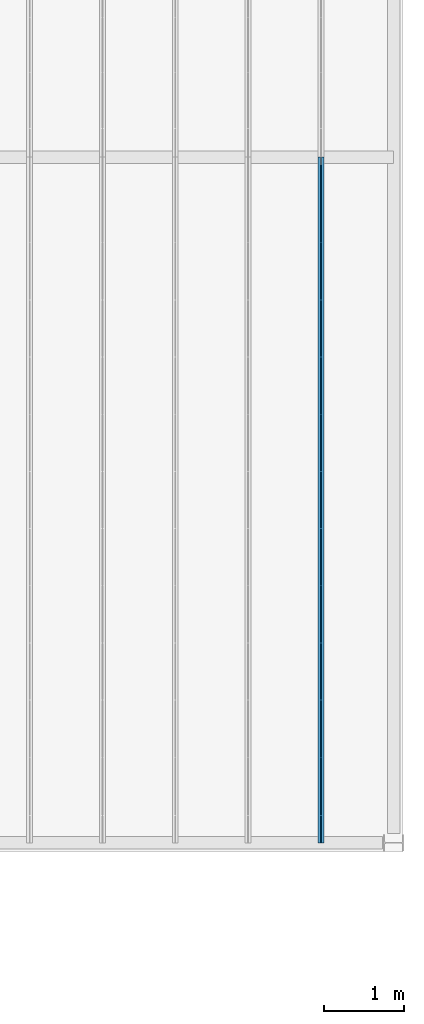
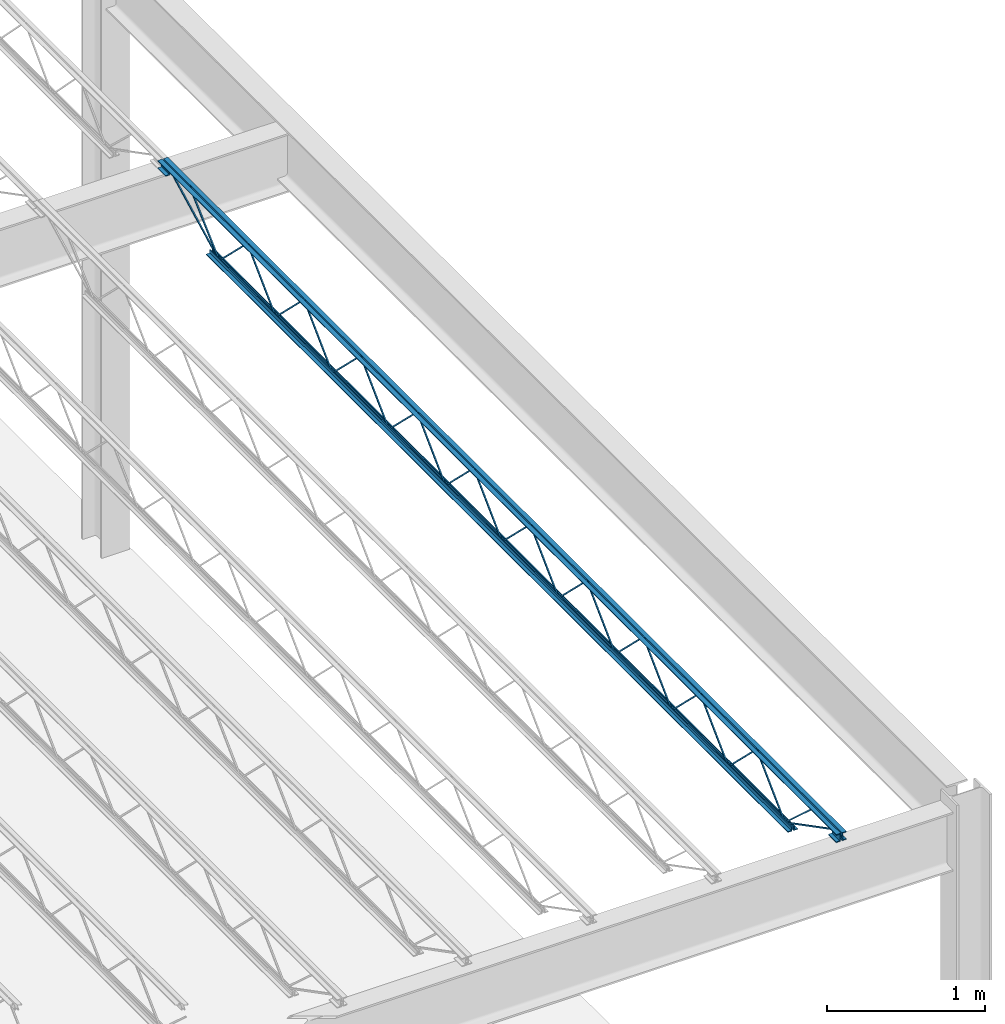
# One storey, part 70 of 119: 1 beam.
"""IFC2X3 building model written with IfcOpenShell, lengths in metres."""

from ifc_helpers import new_model, entity, si_unit, converted_unit, frame, origin, place, context, project, spatial, face_set, surface_model, element, save


model = new_model("IFC2X3")

# Units and contexts
model_context = context("Model", 3, precision=1e-09, world=origin())
plan_context = context("Plan", 3, precision=1e-09, world=origin())
ifc_project = project(units=[si_unit("LENGTHUNIT", "METRE"), si_unit("AREAUNIT", "SQUARE_METRE"), si_unit("VOLUMEUNIT", "CUBIC_METRE"), converted_unit("PLANEANGLEUNIT", "DEGREE", entity("IfcRatioMeasure", 0.01745329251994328), si_unit("PLANEANGLEUNIT", "RADIAN"), dimensions=[0, 0, 0, 0, 0, 0, 0]), si_unit("TIMEUNIT", "SECOND")], contexts=[model_context, plan_context])

# Site, building, storey
site_placement = place(None, origin())
site = spatial("IfcSite", under=ifc_project, at=site_placement, Name="Default", CompositionType="ELEMENT")
building_placement = place(site_placement, origin())
building = spatial("IfcBuilding", under=site, at=building_placement, CompositionType="ELEMENT")
storey_placement = place(building_placement, frame((0.0, 0.0, 4.570000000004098)))
storey = spatial("IfcBuildingStorey", under=building, at=storey_placement, Name="Second Floor", CompositionType="ELEMENT", Elevation=4.570000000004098)

# Beam
beam_placement = place(storey_placement, frame((-0.9467500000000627, 10.03999999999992, 4.323999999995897)))
element("IfcBeam", 1, at=beam_placement, inside=storey, Name="M_K-Series Bar Joist-Rod Web:14K1:14K1", ObjectType="M_K-Series Bar Joist-Rod Web:14K1", context=model_context, shape_type="SurfaceModel", body=[
    surface_model("IfcFaceBasedSurfaceModel", [(0.04150000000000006, 6.428799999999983, 0.01110000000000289), (0.03200000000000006, 6.428799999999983, 0.01110000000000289), (0.03200000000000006, 6.428799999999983, 0.001600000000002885), (0.04150000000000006, 6.428799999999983, 0.001600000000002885), (0.03200000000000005, 6.430038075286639, 0.01110000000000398), (0.04150000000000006, 6.430038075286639, 0.01110000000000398), (0.03200000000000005, 6.433911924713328, 0.001600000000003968), (0.03200000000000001, 6.784861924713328, 0.3449000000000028), (0.03200000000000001, 6.787338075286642, 0.3449000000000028), (0.03200000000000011, 7.138288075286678, 0.001600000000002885), (0.0320000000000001, 7.143399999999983, 0.001600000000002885), (0.0320000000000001, 7.143399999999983, 0.01110000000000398), (0.03200000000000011, 7.142161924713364, 0.01110000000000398), (0.032, 6.791211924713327, 0.3544000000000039), (0.03200000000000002, 6.780988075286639, 0.3544000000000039), (0.04150000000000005, 6.433911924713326, 0.001600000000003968), (0.04150000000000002, 6.784861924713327, 0.3449000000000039), (0.04150000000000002, 6.78733807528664, 0.3449000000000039), (0.04149999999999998, 7.138288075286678, 0.001600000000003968), (0.04149999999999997, 7.143399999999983, 0.001600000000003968), (0.04150000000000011, 7.143399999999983, 0.01110000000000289), (0.04150000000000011, 7.142161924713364, 0.01110000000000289), (0.04150000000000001, 6.79121192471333, 0.3544000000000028), (0.04150000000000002, 6.780988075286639, 0.3544000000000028), (0.04150000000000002, 5.714199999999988, 0.01110000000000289), (0.03200000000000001, 5.714199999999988, 0.01110000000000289), (0.03200000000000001, 5.714199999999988, 0.001600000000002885), (0.04150000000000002, 5.714199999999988, 0.001600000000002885), (0.03200000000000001, 5.715438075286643, 0.01110000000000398), (0.04150000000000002, 5.715438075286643, 0.01110000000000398), (0.032, 5.71931192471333, 0.001600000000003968), (0.03200000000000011, 6.07026192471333, 0.3449000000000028), (0.0320000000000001, 6.072738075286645, 0.3449000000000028), (0.03200000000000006, 6.423688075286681, 0.001600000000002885), (0.03200000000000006, 6.428799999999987, 0.001600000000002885), (0.03200000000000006, 6.428799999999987, 0.01110000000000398), (0.03200000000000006, 6.427561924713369, 0.01110000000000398), (0.03199999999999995, 6.076611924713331, 0.3544000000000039), (0.03199999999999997, 6.066388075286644, 0.3544000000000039), (0.04150000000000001, 5.71931192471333, 0.001600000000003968), (0.04149999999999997, 6.07026192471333, 0.3449000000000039), (0.04149999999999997, 6.072738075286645, 0.3449000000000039), (0.04149999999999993, 6.423688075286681, 0.001600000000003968), (0.04149999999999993, 6.428799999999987, 0.001600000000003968), (0.04150000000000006, 6.428799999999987, 0.01110000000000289), (0.04150000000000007, 6.427561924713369, 0.01110000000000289), (0.0415000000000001, 6.076611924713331, 0.3544000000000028), (0.04150000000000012, 6.066388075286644, 0.3544000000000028), (0.04150000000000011, 4.999599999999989, 0.01110000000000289), (0.03200000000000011, 4.999599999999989, 0.01110000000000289), (0.03200000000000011, 4.999599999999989, 0.001600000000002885), (0.04150000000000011, 4.999599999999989, 0.001600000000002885), (0.0320000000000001, 5.000838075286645, 0.01110000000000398), (0.04150000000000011, 5.000838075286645, 0.01110000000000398), (0.03200000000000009, 5.004711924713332, 0.001600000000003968), (0.03200000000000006, 5.355661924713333, 0.3449000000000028), (0.03200000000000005, 5.358138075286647, 0.3449000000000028), (0.03200000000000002, 5.709088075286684, 0.001600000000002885), (0.03200000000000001, 5.714199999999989, 0.001600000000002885), (0.03200000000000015, 5.714199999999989, 0.01110000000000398), (0.03200000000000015, 5.712961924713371, 0.01110000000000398), (0.03200000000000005, 5.362011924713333, 0.3544000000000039), (0.03200000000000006, 5.351788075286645, 0.3544000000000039), (0.0415000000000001, 5.004711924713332, 0.001600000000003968), (0.04150000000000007, 5.355661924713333, 0.3449000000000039), (0.04150000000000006, 5.358138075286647, 0.3449000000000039), (0.04150000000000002, 5.709088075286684, 0.001600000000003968), (0.04150000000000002, 5.714199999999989, 0.001600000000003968), (0.04150000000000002, 5.714199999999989, 0.01110000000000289), (0.04150000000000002, 5.712961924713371, 0.01110000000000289), (0.04150000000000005, 5.362011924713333, 0.3544000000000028), (0.04150000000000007, 5.351788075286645, 0.3544000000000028), (0.04150000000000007, 4.284999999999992, 0.01110000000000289), (0.03200000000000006, 4.284999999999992, 0.01110000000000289), (0.03200000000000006, 4.284999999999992, 0.001600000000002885), (0.04150000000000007, 4.284999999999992, 0.001600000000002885), (0.03200000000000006, 4.286238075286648, 0.01110000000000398), (0.04150000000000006, 4.286238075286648, 0.01110000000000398), (0.03200000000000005, 4.290111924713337, 0.001600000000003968), (0.03200000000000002, 4.641061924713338, 0.3449000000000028), (0.03200000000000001, 4.643538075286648, 0.3449000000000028), (0.03200000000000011, 4.994488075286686, 0.001600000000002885), (0.03200000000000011, 4.999599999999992, 0.001600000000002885), (0.03200000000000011, 4.999599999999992, 0.01110000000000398), (0.03200000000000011, 4.998361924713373, 0.01110000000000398), (0.032, 4.647411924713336, 0.3544000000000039), (0.03200000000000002, 4.637188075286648, 0.3544000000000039), (0.04150000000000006, 4.290111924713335, 0.001600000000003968), (0.04150000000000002, 4.641061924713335, 0.3449000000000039), (0.04150000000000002, 4.643538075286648, 0.3449000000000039), (0.04149999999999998, 4.994488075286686, 0.001600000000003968), (0.04149999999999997, 4.999599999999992, 0.001600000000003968), (0.04150000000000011, 4.999599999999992, 0.01110000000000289), (0.04150000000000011, 4.998361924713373, 0.01110000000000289), (0.04150000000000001, 4.647411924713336, 0.3544000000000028), (0.04150000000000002, 4.637188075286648, 0.3544000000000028), (0.04150000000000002, 3.570399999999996, 0.01110000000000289), (0.03200000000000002, 3.570399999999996, 0.01110000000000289), (0.03200000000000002, 3.570399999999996, 0.001600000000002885), (0.04150000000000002, 3.570399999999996, 0.001600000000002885), (0.03200000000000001, 3.571638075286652, 0.01110000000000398), (0.04150000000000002, 3.571638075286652, 0.01110000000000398), (0.03200000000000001, 3.575511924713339, 0.001600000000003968), (0.03200000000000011, 3.926461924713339, 0.3449000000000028), (0.0320000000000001, 3.928938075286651, 0.3449000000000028), (0.03200000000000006, 4.279888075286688, 0.001600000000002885), (0.03200000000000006, 4.284999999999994, 0.001600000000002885), (0.03200000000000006, 4.284999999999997, 0.01110000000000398), (0.03200000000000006, 4.283761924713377, 0.01110000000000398), (0.03199999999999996, 3.93281192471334, 0.3544000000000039), (0.03199999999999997, 3.922588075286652, 0.3544000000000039), (0.04150000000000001, 3.575511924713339, 0.001600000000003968), (0.04149999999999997, 3.926461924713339, 0.3449000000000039), (0.04149999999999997, 3.928938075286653, 0.3449000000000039), (0.04149999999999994, 4.27988807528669, 0.001600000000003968), (0.04149999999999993, 4.284999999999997, 0.001600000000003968), (0.04150000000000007, 4.284999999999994, 0.01110000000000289), (0.04150000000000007, 4.283761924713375, 0.01110000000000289), (0.0415000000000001, 3.932811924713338, 0.3544000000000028), (0.04150000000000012, 3.922588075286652, 0.3544000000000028), (0.04150000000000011, 2.855799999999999, 0.01110000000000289), (0.03200000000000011, 2.855799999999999, 0.01110000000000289), (0.03200000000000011, 2.855799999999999, 0.001600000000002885), (0.04150000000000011, 2.855799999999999, 0.001600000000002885), (0.03200000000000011, 2.857038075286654, 0.01110000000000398), (0.04150000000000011, 2.857038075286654, 0.01110000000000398), (0.03200000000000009, 2.860911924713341, 0.001600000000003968), (0.03200000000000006, 3.211861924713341, 0.3449000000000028), (0.03200000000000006, 3.214338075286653, 0.3449000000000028), (0.03200000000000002, 3.56528807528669, 0.001600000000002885), (0.03200000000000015, 3.570399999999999, 0.01110000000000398), (0.03200000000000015, 3.56916192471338, 0.01110000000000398), (0.03200000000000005, 3.218211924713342, 0.3544000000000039), (0.03200000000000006, 3.207988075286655, 0.3544000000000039), (0.0415000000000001, 2.860911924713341, 0.001600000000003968), (0.04150000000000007, 3.211861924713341, 0.3449000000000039), (0.04150000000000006, 3.214338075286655, 0.3449000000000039), (0.04150000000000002, 3.565288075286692, 0.001600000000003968), (0.04150000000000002, 3.570399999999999, 0.001600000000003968), (0.04150000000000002, 3.569161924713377, 0.01110000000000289), (0.04150000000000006, 3.21821192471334, 0.3544000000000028), (0.04150000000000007, 3.207988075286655, 0.3544000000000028), (0.04150000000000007, 2.1412, 0.01110000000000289), (0.03200000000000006, 2.1412, 0.01110000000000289), (0.03200000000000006, 2.1412, 0.001600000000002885), (0.04150000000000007, 2.1412, 0.001600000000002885), (0.03200000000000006, 2.142438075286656, 0.01110000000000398), (0.04150000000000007, 2.142438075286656, 0.01110000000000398), (0.03200000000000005, 2.146311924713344, 0.001600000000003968), (0.03200000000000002, 2.497261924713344, 0.3449000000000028), (0.03200000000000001, 2.499738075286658, 0.3449000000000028), (0.03200000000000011, 2.850688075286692, 0.001600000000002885), (0.03200000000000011, 2.8558, 0.001600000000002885), (0.03200000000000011, 2.8558, 0.01110000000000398), (0.03200000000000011, 2.854561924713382, 0.01110000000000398), (0.03200000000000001, 2.503611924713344, 0.3544000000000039), (0.03200000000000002, 2.493388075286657, 0.3544000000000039), (0.04150000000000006, 2.146311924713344, 0.001600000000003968), (0.04150000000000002, 2.497261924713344, 0.3449000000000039), (0.04150000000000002, 2.499738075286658, 0.3449000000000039), (0.04149999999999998, 2.850688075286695, 0.001600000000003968), (0.04149999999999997, 2.8558, 0.001600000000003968), (0.04150000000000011, 2.8558, 0.01110000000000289), (0.04150000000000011, 2.854561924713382, 0.01110000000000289), (0.04150000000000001, 2.503611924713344, 0.3544000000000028), (0.04150000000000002, 2.493388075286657, 0.3544000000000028), (0.04150000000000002, 1.426600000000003, 0.01110000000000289), (0.03200000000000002, 1.426600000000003, 0.01110000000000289), (0.03200000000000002, 1.426600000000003, 0.001600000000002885), (0.04150000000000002, 1.426600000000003, 0.001600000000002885), (0.03200000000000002, 1.427838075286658, 0.01110000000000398), (0.04150000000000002, 1.427838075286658, 0.01110000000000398), (0.03200000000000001, 1.431711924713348, 0.001600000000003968), (0.03200000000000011, 1.782661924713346, 0.3449000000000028), (0.03200000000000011, 1.78513807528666, 0.3449000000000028), (0.03200000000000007, 2.136088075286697, 0.001600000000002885), (0.03200000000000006, 2.141200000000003, 0.001600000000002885), (0.03200000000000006, 2.141200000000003, 0.01110000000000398), (0.03200000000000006, 2.139961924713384, 0.01110000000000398), (0.03199999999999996, 1.789011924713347, 0.3544000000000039), (0.03199999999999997, 1.778788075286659, 0.3544000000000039), (0.04150000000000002, 1.431711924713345, 0.001600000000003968), (0.04149999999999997, 1.782661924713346, 0.3449000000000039), (0.04149999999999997, 1.78513807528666, 0.3449000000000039), (0.04149999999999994, 2.136088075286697, 0.001600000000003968), (0.04149999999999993, 2.141200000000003, 0.001600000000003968), (0.04150000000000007, 2.141200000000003, 0.01110000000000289), (0.04150000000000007, 2.139961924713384, 0.01110000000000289), (0.0415000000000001, 1.789011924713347, 0.3544000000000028), (0.04150000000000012, 1.778788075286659, 0.3544000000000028), (0.04150000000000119, 7.143399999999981, 0.01109999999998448), (0.03200000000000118, 7.143399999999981, 0.01109999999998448), (0.03200000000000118, 7.143399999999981, 0.001599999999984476), (0.04150000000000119, 7.143399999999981, 0.001599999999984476), (0.03200000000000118, 7.144638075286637, 0.01109999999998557), (0.04150000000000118, 7.144638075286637, 0.01109999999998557), (0.03200000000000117, 7.148511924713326, 0.001599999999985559), (0.03200000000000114, 7.499461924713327, 0.3448999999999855), (0.03200000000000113, 7.50193807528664, 0.3448999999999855), (0.0320000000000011, 7.852888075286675, 0.001599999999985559), (0.03200000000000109, 7.857999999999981, 0.001599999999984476), (0.03200000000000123, 7.857999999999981, 0.01109999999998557), (0.03200000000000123, 7.856761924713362, 0.01109999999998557), (0.03200000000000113, 7.505811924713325, 0.3543999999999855), (0.03200000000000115, 7.495588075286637, 0.3543999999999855), (0.04150000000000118, 7.148511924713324, 0.001599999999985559), (0.04150000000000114, 7.499461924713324, 0.3448999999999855), (0.04150000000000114, 7.501938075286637, 0.3448999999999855), (0.04150000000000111, 7.852888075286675, 0.001599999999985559), (0.0415000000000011, 7.857999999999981, 0.001599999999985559), (0.0415000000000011, 7.857999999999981, 0.01109999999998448), (0.0415000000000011, 7.856761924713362, 0.01109999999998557), (0.04150000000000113, 7.505811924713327, 0.3543999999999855), (0.04150000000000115, 7.495588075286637, 0.3543999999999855), (0.04150000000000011, 0.712000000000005, 0.01110000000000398), (0.03200000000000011, 0.712000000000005, 0.01110000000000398), (0.03200000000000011, 0.712000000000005, 0.001600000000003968), (0.04150000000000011, 0.712000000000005, 0.001600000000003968), (0.03200000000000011, 0.7132380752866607, 0.01110000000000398), (0.04150000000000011, 0.7132380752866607, 0.01110000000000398), (0.0320000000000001, 0.7171119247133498, 0.001600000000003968), (0.03200000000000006, 1.068061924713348, 0.3449000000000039), (0.03200000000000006, 1.070538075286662, 0.3449000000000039), (0.03200000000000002, 1.421488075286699, 0.001600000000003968), (0.03200000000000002, 1.426600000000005, 0.001600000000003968), (0.03200000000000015, 1.426600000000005, 0.01110000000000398), (0.03200000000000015, 1.425361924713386, 0.01110000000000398), (0.03200000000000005, 1.074411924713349, 0.3544000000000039), (0.03200000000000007, 1.064188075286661, 0.3544000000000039), (0.0415000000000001, 0.7171119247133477, 0.001600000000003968), (0.04150000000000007, 1.068061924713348, 0.3449000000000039), (0.04150000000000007, 1.070538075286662, 0.3449000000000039), (0.04150000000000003, 1.421488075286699, 0.001600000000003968), (0.04150000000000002, 1.426600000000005, 0.001600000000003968), (0.04150000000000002, 1.426600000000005, 0.01110000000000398), (0.04150000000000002, 1.425361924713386, 0.01110000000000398), (0.04150000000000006, 1.074411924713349, 0.3544000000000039), (0.04150000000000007, 1.064188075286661, 0.3544000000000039), (0.03200000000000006, 8.569999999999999, 0.3559999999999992), (0.0, 8.569999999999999, 0.3559999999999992), (0.0, 8.569999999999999, 0.3494999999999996), (0.02549999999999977, 8.569999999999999, 0.3494999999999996), (0.02549999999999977, 8.569999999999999, 0.3239999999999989), (0.03200000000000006, 8.569999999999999, 0.3239999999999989), (0.04149999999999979, 8.569999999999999, 0.3559999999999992), (0.04149999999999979, 8.569999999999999, 0.3239999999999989), (0.04799999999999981, 8.569999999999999, 0.3239999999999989), (0.04799999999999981, 8.569999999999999, 0.3494999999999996), (0.0735000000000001, 8.569999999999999, 0.3494999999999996), (0.0735000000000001, 8.569999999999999, 0.3559999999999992), (0.03200000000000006, 0.0, 0.3559999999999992), (0.0, 0.0, 0.3559999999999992), (0.0, 0.0, 0.3494999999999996), (0.02549999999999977, 0.0, 0.3494999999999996), (0.02549999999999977, 0.0, 0.3239999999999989), (0.03200000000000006, 0.0, 0.3239999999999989), (0.04149999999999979, 0.0, 0.3559999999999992), (0.04149999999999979, 0.0, 0.3239999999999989), (0.04799999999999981, 0.0, 0.3239999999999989), (0.04799999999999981, 0.0, 0.3494999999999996), (0.0735000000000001, 0.0, 0.3494999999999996), (0.0735000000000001, 0.0, 0.3559999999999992), (0.04149999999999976, 0.0999999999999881, 0.2924999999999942), (0.07350000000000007, 0.0999999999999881, 0.2924999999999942), (0.07350000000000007, 0.0999999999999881, 0.2989999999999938), (0.04799999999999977, 0.0999999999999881, 0.2989999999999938), (0.04799999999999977, 0.0999999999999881, 0.3239999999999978), (0.04149999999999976, 0.0999999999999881, 0.3239999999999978), (0.0, 0.0999999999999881, 0.2924999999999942), (0.03199999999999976, 0.0999999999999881, 0.2924999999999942), (0.03199999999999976, 0.0999999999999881, 0.3239999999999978), (0.02549999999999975, 0.0999999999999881, 0.3239999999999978), (0.02549999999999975, 0.0999999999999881, 0.2989999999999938), (0.0, 0.0999999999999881, 0.2989999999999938), (0.04149999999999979, 0.0, 0.2924999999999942), (0.0735000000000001, 0.0, 0.2924999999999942), (0.0735000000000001, 0.0, 0.2989999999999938), (0.04799999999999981, 0.0, 0.2989999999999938), (0.04799999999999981, 0.0, 0.3239999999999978), (0.04149999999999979, 0.0, 0.3239999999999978), (0.0, 0.0, 0.2924999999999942), (0.03199999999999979, 0.0, 0.2924999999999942), (0.03199999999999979, 0.0, 0.3239999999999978), (0.02549999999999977, 0.0, 0.3239999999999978), (0.02549999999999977, 0.0, 0.2989999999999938), (0.0, 0.0, 0.2989999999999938), (0.03199999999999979, 8.569999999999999, 0.2924999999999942), (0.03199999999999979, 8.569999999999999, 0.3239999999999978), (0.02549999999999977, 8.569999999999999, 0.3239999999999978), (0.02549999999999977, 8.569999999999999, 0.2989999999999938), (0.0, 8.569999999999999, 0.2989999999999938), (0.0, 8.569999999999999, 0.2924999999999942), (0.04149999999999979, 8.569999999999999, 0.2924999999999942), (0.07349999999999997, 8.569999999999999, 0.2924999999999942), (0.07349999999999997, 8.569999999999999, 0.2989999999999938), (0.04799999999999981, 8.569999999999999, 0.2989999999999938), (0.04799999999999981, 8.569999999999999, 0.3239999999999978), (0.04149999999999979, 8.569999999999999, 0.3239999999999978), (0.03199999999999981, 8.47, 0.2924999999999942), (0.03199999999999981, 8.47, 0.3239999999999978), (0.0254999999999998, 8.47, 0.3239999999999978), (0.0254999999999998, 8.47, 0.2989999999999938), (0.0, 8.47, 0.2989999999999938), (0.0, 8.47, 0.2924999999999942), (0.04149999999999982, 8.47, 0.2924999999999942), (0.0735, 8.47, 0.2924999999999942), (0.0735, 8.47, 0.2989999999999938), (0.0479999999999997, 8.47, 0.2989999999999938), (0.0479999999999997, 8.47, 0.3239999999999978), (0.04149999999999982, 8.47, 0.3239999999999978), (0.03199999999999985, 7.958000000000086, 0.0), (0.03199999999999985, 7.958000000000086, 0.03199999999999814), (0.02549999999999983, 7.958000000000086, 0.03199999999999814), (0.02549999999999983, 7.958000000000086, 0.006499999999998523), (0.0, 7.958000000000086, 0.006499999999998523), (0.0, 7.958000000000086, 0.0), (0.04149999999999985, 7.958000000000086, 0.0), (0.07350000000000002, 7.958000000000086, 0.0), (0.07350000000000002, 7.958000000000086, 0.006499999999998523), (0.04799999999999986, 7.958000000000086, 0.006499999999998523), (0.04799999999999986, 7.958000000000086, 0.03199999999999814), (0.04149999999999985, 7.958000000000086, 0.03199999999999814), (0.03199999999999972, 0.6120000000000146, 0.0), (0.03199999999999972, 0.6120000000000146, 0.03199999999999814), (0.02549999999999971, 0.6120000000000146, 0.03199999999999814), (0.02549999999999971, 0.6120000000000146, 0.006499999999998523), (0.0, 0.6120000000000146, 0.006499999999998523), (0.0, 0.6120000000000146, 0.0), (0.04149999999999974, 0.6120000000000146, 0.0), (0.07349999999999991, 0.6120000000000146, 0.0), (0.07349999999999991, 0.6120000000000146, 0.006499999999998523), (0.04799999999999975, 0.6120000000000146, 0.006499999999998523), (0.04799999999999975, 0.6120000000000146, 0.03199999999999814), (0.04149999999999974, 0.6120000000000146, 0.03199999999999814), (0.04150000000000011, 0.7141882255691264, 0.01056594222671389), (0.03200000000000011, 0.7141882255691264, 0.01056594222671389), (0.03200000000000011, 0.7098117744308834, 0.002134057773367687), (0.04150000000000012, 0.7098117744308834, 0.00213405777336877), (0.04150000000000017, 0.1011592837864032, 0.3287499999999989), (0.04150000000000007, 0.0, 0.3287499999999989), (0.04150000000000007, 0.0, 0.3192499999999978), (0.04150000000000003, 0.09884071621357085, 0.3192499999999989), (0.03200000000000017, 0.09884071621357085, 0.3192499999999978), (0.03200000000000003, 0.1011592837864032, 0.3287499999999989), (0.03200000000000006, 0.0, 0.3287499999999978), (0.03200000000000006, 0.0, 0.3192499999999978), (0.04150000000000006, 0.3347428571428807, 0.3417000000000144), (0.03200000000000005, 0.3347428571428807, 0.3417000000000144), (0.03200000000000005, 0.3347428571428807, 0.3322000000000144), (0.04150000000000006, 0.3347428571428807, 0.3322000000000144), (0.03200000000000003, 0.349275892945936, 0.3417000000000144), (0.04150000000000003, 0.3492758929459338, 0.3417000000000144), (0.03200000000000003, 0.3456098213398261, 0.3322000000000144), (0.03200000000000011, 0.7088091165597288, 0.002831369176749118), (0.0320000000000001, 0.7151908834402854, 0.009868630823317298), (0.04150000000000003, 0.3456098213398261, 0.3322000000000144), (0.04150000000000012, 0.708809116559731, 0.002831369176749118), (0.04150000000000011, 0.7151908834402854, 0.009868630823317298), (0.04150000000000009, 8.472188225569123, 0.3197840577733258), (0.04150000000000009, 8.467811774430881, 0.328215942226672), (0.03200000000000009, 8.467811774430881, 0.328215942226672), (0.03200000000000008, 8.472188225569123, 0.3197840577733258), (0.04150000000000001, 7.860188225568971, 0.002134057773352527), (0.04150000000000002, 7.855811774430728, 0.01056594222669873), (0.03200000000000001, 7.855811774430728, 0.01056594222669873), (0.03200000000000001, 7.860188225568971, 0.002134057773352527), (0.04150000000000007, 8.233036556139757, 0.3461600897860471), (0.04150000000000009, 8.22659201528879, 0.3531399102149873), (0.03200000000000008, 8.22659201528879, 0.3531399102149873), (0.03200000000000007, 8.233036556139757, 0.3461600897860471), (0.04150000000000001, 7.86122227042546, 0.00286008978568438), (0.04150000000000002, 7.854777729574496, 0.009839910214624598), (0.03200000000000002, 7.854777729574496, 0.009839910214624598), (0.032, 7.86122227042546, 0.00286008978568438)], [face_set([[[0, 1, 2, 3]], [[1, 4, 5, 0]], [[2, 6, 7, 8, 9, 10, 11, 12, 13, 14, 4, 1]], [[3, 2, 6, 15]], [[0, 3, 15, 16, 17, 18, 19, 20, 21, 22, 23, 5]], [[4, 5, 23, 14]], [[15, 16, 7, 6]], [[14, 13, 22, 23]], [[16, 7, 8, 17]], [[13, 12, 21, 22]], [[17, 8, 9, 18]], [[20, 11, 10, 19]], [[12, 11, 20, 21]], [[18, 9, 10, 19]]]), face_set([[[24, 25, 26, 27]], [[25, 28, 29, 24]], [[26, 30, 31, 32, 33, 34, 35, 36, 37, 38, 28, 25]], [[27, 26, 30, 39]], [[24, 27, 39, 40, 41, 42, 43, 44, 45, 46, 47, 29]], [[28, 29, 47, 38]], [[39, 40, 31, 30]], [[38, 37, 46, 47]], [[40, 31, 32, 41]], [[37, 36, 45, 46]], [[41, 32, 33, 42]], [[44, 35, 34, 43]], [[36, 35, 44, 45]], [[42, 33, 34, 43]]]), face_set([[[48, 49, 50, 51]], [[49, 52, 53, 48]], [[50, 54, 55, 56, 57, 58, 59, 60, 61, 62, 52, 49]], [[51, 50, 54, 63]], [[48, 51, 63, 64, 65, 66, 67, 68, 69, 70, 71, 53]], [[52, 53, 71, 62]], [[63, 64, 55, 54]], [[62, 61, 70, 71]], [[64, 55, 56, 65]], [[61, 60, 69, 70]], [[65, 56, 57, 66]], [[68, 59, 58, 67]], [[60, 59, 68, 69]], [[66, 57, 58, 67]]]), face_set([[[72, 73, 74, 75]], [[73, 76, 77, 72]], [[74, 78, 79, 80, 81, 82, 83, 84, 85, 86, 76, 73]], [[75, 74, 78, 87]], [[72, 75, 87, 88, 89, 90, 91, 92, 93, 94, 95, 77]], [[76, 77, 95, 86]], [[87, 88, 79, 78]], [[86, 85, 94, 95]], [[88, 79, 80, 89]], [[85, 84, 93, 94]], [[89, 80, 81, 90]], [[92, 83, 82, 91]], [[84, 83, 92, 93]], [[90, 81, 82, 91]]]), face_set([[[96, 97, 98, 99]], [[97, 100, 101, 96]], [[98, 102, 103, 104, 105, 106, 107, 108, 109, 110, 100, 97]], [[99, 98, 102, 111]], [[96, 99, 111, 112, 113, 114, 115, 116, 117, 118, 119, 101]], [[100, 101, 119, 110]], [[111, 112, 103, 102]], [[110, 109, 118, 119]], [[112, 103, 104, 113]], [[109, 108, 117, 118]], [[113, 104, 105, 114]], [[116, 107, 106, 115]], [[108, 107, 116, 117]], [[114, 105, 106, 115]]]), face_set([[[120, 121, 122, 123]], [[121, 124, 125, 120]], [[122, 126, 127, 128, 129, 98, 130, 131, 132, 133, 124, 121]], [[123, 122, 126, 134]], [[120, 123, 134, 135, 136, 137, 138, 96, 139, 140, 141, 125]], [[124, 125, 141, 133]], [[134, 135, 127, 126]], [[133, 132, 140, 141]], [[135, 127, 128, 136]], [[132, 131, 139, 140]], [[136, 128, 129, 137]], [[96, 130, 98, 138]], [[131, 130, 96, 139]], [[137, 129, 98, 138]]]), face_set([[[142, 143, 144, 145]], [[143, 146, 147, 142]], [[144, 148, 149, 150, 151, 152, 153, 154, 155, 156, 146, 143]], [[145, 144, 148, 157]], [[142, 145, 157, 158, 159, 160, 161, 162, 163, 164, 165, 147]], [[146, 147, 165, 156]], [[157, 158, 149, 148]], [[156, 155, 164, 165]], [[158, 149, 150, 159]], [[155, 154, 163, 164]], [[159, 150, 151, 160]], [[162, 153, 152, 161]], [[154, 153, 162, 163]], [[160, 151, 152, 161]]]), face_set([[[166, 167, 168, 169]], [[167, 170, 171, 166]], [[168, 172, 173, 174, 175, 176, 177, 178, 179, 180, 170, 167]], [[169, 168, 172, 181]], [[166, 169, 181, 182, 183, 184, 185, 186, 187, 188, 189, 171]], [[170, 171, 189, 180]], [[181, 182, 173, 172]], [[180, 179, 188, 189]], [[182, 173, 174, 183]], [[179, 178, 187, 188]], [[183, 174, 175, 184]], [[186, 177, 176, 185]], [[178, 177, 186, 187]], [[184, 175, 176, 185]]]), face_set([[[190, 191, 192, 193]], [[191, 194, 195, 190]], [[192, 196, 197, 198, 199, 200, 201, 202, 203, 204, 194, 191]], [[193, 192, 196, 205]], [[190, 193, 205, 206, 207, 208, 209, 210, 211, 212, 213, 195]], [[194, 195, 213, 204]], [[205, 206, 197, 196]], [[204, 203, 212, 213]], [[206, 197, 198, 207]], [[203, 202, 211, 212]], [[207, 198, 199, 208]], [[210, 201, 200, 209]], [[202, 201, 210, 211]], [[208, 199, 200, 209]]]), face_set([[[214, 215, 216, 217]], [[215, 218, 219, 214]], [[216, 220, 221, 222, 223, 224, 225, 226, 227, 228, 218, 215]], [[217, 216, 220, 229]], [[214, 217, 229, 230, 231, 232, 233, 234, 235, 236, 237, 219]], [[218, 219, 237, 228]], [[229, 230, 221, 220]], [[228, 227, 236, 237]], [[230, 221, 222, 231]], [[227, 226, 235, 236]], [[231, 222, 223, 232]], [[234, 225, 224, 233]], [[226, 225, 234, 235]], [[232, 223, 224, 233]]]), face_set([[[238, 239, 240, 241, 242, 243]], [[244, 245, 246, 247, 248, 249]], [[250, 251, 252, 253, 254, 255]], [[256, 257, 258, 259, 260, 261]], [[243, 238, 250, 255]], [[242, 243, 255, 254]], [[241, 253, 254, 242]], [[240, 241, 253, 252]], [[239, 251, 252, 240]], [[238, 250, 251, 239]], [[249, 261, 256, 244]], [[248, 249, 261, 260]], [[247, 248, 260, 259]], [[246, 247, 259, 258]], [[245, 246, 258, 257]], [[244, 256, 257, 245]]]), face_set([[[262, 263, 264, 265, 266, 267]], [[268, 269, 270, 271, 272, 273]], [[274, 275, 276, 277, 278, 279]], [[280, 281, 282, 283, 284, 285]], [[267, 279, 274, 262]], [[266, 278, 279, 267]], [[265, 266, 278, 277]], [[264, 276, 277, 265]], [[263, 264, 276, 275]], [[262, 263, 275, 274]], [[273, 285, 280, 268]], [[272, 284, 285, 273]], [[271, 283, 284, 272]], [[270, 282, 283, 271]], [[269, 270, 282, 281]], [[268, 269, 281, 280]]]), face_set([[[286, 287, 288, 289, 290, 291]], [[292, 293, 294, 295, 296, 297]], [[298, 299, 300, 301, 302, 303]], [[304, 305, 306, 307, 308, 309]], [[291, 286, 298, 303]], [[290, 302, 303, 291]], [[289, 301, 302, 290]], [[288, 300, 301, 289]], [[287, 299, 300, 288]], [[286, 287, 299, 298]], [[297, 309, 304, 292]], [[296, 308, 309, 297]], [[295, 296, 308, 307]], [[294, 306, 307, 295]], [[293, 294, 306, 305]], [[292, 293, 305, 304]]]), face_set([[[310, 311, 312, 313, 314, 315]], [[316, 317, 318, 319, 320, 321]], [[322, 323, 324, 325, 326, 327]], [[328, 329, 330, 331, 332, 333]], [[315, 310, 322, 327]], [[314, 326, 327, 315]], [[313, 325, 326, 314]], [[312, 324, 325, 313]], [[311, 323, 324, 312]], [[310, 311, 323, 322]], [[321, 333, 328, 316]], [[320, 332, 333, 321]], [[319, 320, 332, 331]], [[318, 330, 331, 319]], [[317, 318, 330, 329]], [[316, 317, 329, 328]]]), face_set([[[334, 335, 336, 337]], [[337, 334, 338, 339, 340, 341]], [[336, 337, 341, 342]], [[335, 343, 344, 345, 342, 336]], [[334, 338, 343, 335]], [[339, 344, 345, 340]], [[342, 341, 340, 345]], [[338, 339, 344, 343]]]), face_set([[[346, 347, 348, 349]], [[347, 350, 351, 346]], [[348, 352, 353, 354, 350, 347]], [[349, 348, 352, 355]], [[346, 349, 355, 356, 357, 351]], [[357, 354, 353, 356]], [[350, 354, 357, 351]], [[355, 352, 353, 356]]]), face_set([[[358, 359, 360, 361]], [[362, 363, 364, 365]], [[361, 358, 362, 365]], [[360, 364, 365, 361]], [[359, 363, 364, 360]], [[358, 359, 363, 362]]]), face_set([[[366, 367, 368, 369]], [[370, 371, 372, 373]], [[369, 373, 370, 366]], [[368, 372, 373, 369]], [[367, 368, 372, 371]], [[366, 367, 371, 370]]])]),
])

save(model, "model.ifc")
